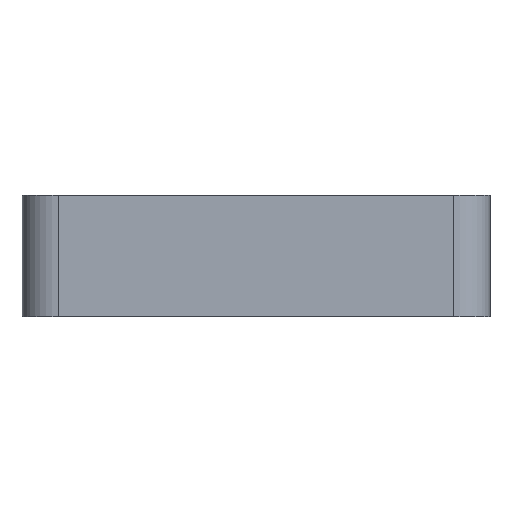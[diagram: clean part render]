
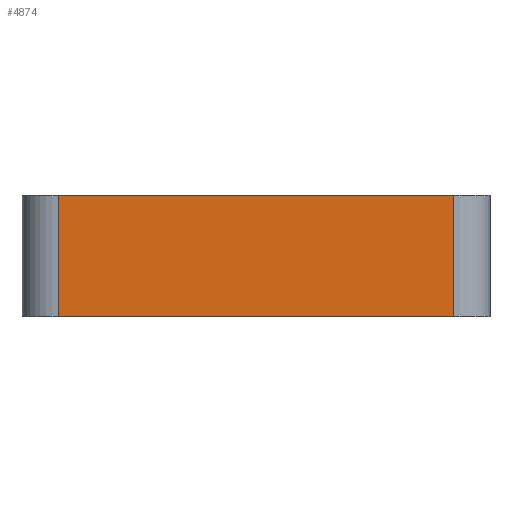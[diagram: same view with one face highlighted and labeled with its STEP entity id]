
A CAD part, left-side view. The second image highlights one B-rep face of the part: STEP entity #4874.
In plain terms, the highlighted planar face has unit normal (-1, 0, 0).
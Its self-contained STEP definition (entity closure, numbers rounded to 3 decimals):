
#659=FACE_OUTER_BOUND('',#957,.T.);
#957=EDGE_LOOP('',(#4425,#4426,#4427,#4428));
#1385=LINE('',#8138,#1883);
#1462=LINE('',#8388,#1960);
#1463=LINE('',#8391,#1961);
#1464=LINE('',#8392,#1962);
#1883=VECTOR('',#5841,10.);
#1960=VECTOR('',#6112,10.);
#1961=VECTOR('',#6115,10.);
#1962=VECTOR('',#6116,10.);
#2332=VERTEX_POINT('',#8135);
#2333=VERTEX_POINT('',#8137);
#2409=VERTEX_POINT('',#8386);
#2410=VERTEX_POINT('',#8390);
#2964=EDGE_CURVE('',#2332,#2333,#1385,.T.);
#3089=EDGE_CURVE('',#2409,#2332,#1462,.T.);
#3090=EDGE_CURVE('',#2410,#2409,#1463,.T.);
#3091=EDGE_CURVE('',#2333,#2410,#1464,.T.);
#4425=ORIENTED_EDGE('',*,*,#3089,.F.);
#4426=ORIENTED_EDGE('',*,*,#3090,.F.);
#4427=ORIENTED_EDGE('',*,*,#3091,.F.);
#4428=ORIENTED_EDGE('',*,*,#2964,.F.);
#4621=PLANE('',#5130);
#4874=ADVANCED_FACE('',(#659),#4621,.T.);
#5130=AXIS2_PLACEMENT_3D('',#8389,#6113,#6114);
#5841=DIRECTION('',(0.,-1.,0.));
#6112=DIRECTION('',(0.,0.,1.));
#6113=DIRECTION('center_axis',(-1.,0.,0.));
#6114=DIRECTION('ref_axis',(0.,1.,0.));
#6115=DIRECTION('',(0.,1.,0.));
#6116=DIRECTION('',(0.,0.,-1.));
#8135=CARTESIAN_POINT('',(0.,59.5,2.4));
#8137=CARTESIAN_POINT('',(0.,5.,2.4));
#8138=CARTESIAN_POINT('',(0.,59.5,2.4));
#8386=CARTESIAN_POINT('',(0.,59.5,-14.4));
#8388=CARTESIAN_POINT('',(0.,59.5,0.));
#8389=CARTESIAN_POINT('Origin',(0.,5.,0.));
#8390=CARTESIAN_POINT('',(0.,5.,-14.4));
#8391=CARTESIAN_POINT('',(0.,59.5,-14.4));
#8392=CARTESIAN_POINT('',(0.,5.,0.));
